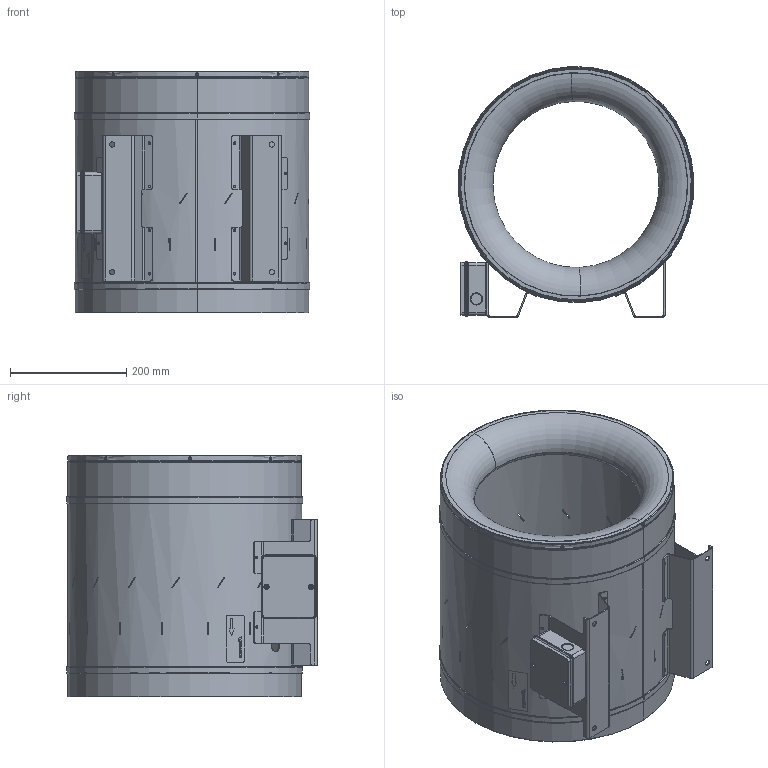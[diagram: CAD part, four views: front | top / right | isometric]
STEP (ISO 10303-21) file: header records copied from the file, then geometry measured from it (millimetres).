
FILE_DESCRIPTION (( 'STEP AP203' ), '1' );
FILE_NAME ('119380-02_EL400E401.STEP', '2013-10-02T09:34:37', ( '' ), ( '' ), 'SwSTEP 2.0', 'SolidWorks 2012', '' );
FILE_SCHEMA (( 'CONFIG_CONTROL_DESIGN' ));
Length unit declared in the file: millimetre
Products named in the file (1): 119380-02_EL400E401
Bounding box: 406.2 x 431.6 x 416.5 mm (x, y, z)
Surface area: 1456444.2 mm2 (no closed solid volume)
Topology: 0 solids, 27 shells, 541 faces, 2082 edges, 1522 vertices
Faces by surface type: cylinder 180, plane 164, bspline 149, torus 28, cone 20
Entity records: 30937 total; most frequent: CARTESIAN_POINT 15299, ORIENTED_EDGE 3243, DIRECTION 2455, EDGE_CURVE 2082, VERTEX_POINT 1522, B_SPLINE_CURVE_WITH_KNOTS 835, AXIS2_PLACEMENT_3D 819, VECTOR 817
